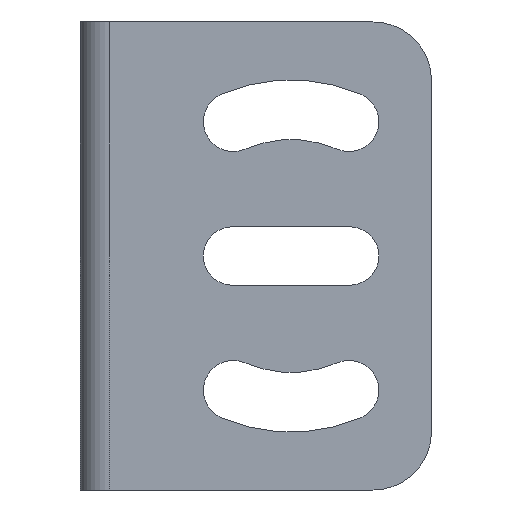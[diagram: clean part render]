
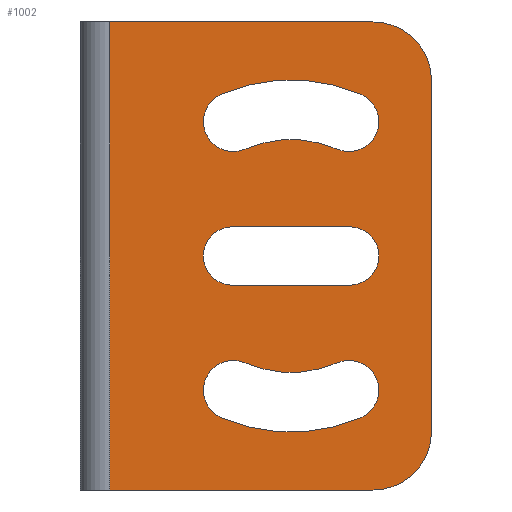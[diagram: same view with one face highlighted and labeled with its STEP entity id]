
A CAD part, front view. The second image highlights one B-rep face of the part: STEP entity #1002.
In plain terms, the highlighted planar face has unit normal (0, -1, 0).
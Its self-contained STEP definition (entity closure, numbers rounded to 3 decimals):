
#6=DIRECTION('',(1.,0.,0.));
#7=VECTOR('',#6,22.5);
#8=CARTESIAN_POINT('',(0.5,-2.,-20.));
#9=LINE('',#8,#7);
#314=DIRECTION('',(0.,0.,-1.));
#315=VECTOR('',#314,40.);
#316=CARTESIAN_POINT('',(0.5,-2.,20.));
#317=LINE('',#316,#315);
#318=CARTESIAN_POINT('',(23.,-2.,15.));
#319=DIRECTION('',(0.,-1.,0.));
#320=DIRECTION('',(1.,0.,0.));
#321=AXIS2_PLACEMENT_3D('',#318,#319,#320);
#323=CARTESIAN_POINT('',(23.,-2.,-15.));
#324=DIRECTION('',(0.,-1.,0.));
#325=DIRECTION('',(0.,0.,-1.));
#326=AXIS2_PLACEMENT_3D('',#323,#324,#325);
#328=CARTESIAN_POINT('',(11.,-2.,0.));
#329=DIRECTION('',(0.,1.,0.));
#330=DIRECTION('',(0.,0.,-1.));
#331=AXIS2_PLACEMENT_3D('',#328,#329,#330);
#333=DIRECTION('',(-1.,0.,0.));
#334=VECTOR('',#333,10.);
#335=CARTESIAN_POINT('',(21.,-2.,-2.5));
#336=LINE('',#335,#334);
#337=CARTESIAN_POINT('',(21.,-2.,0.));
#338=DIRECTION('',(0.,1.,0.));
#339=DIRECTION('',(0.,0.,1.));
#340=AXIS2_PLACEMENT_3D('',#337,#338,#339);
#342=DIRECTION('',(1.,0.,0.));
#343=VECTOR('',#342,10.);
#344=CARTESIAN_POINT('',(11.,-2.,2.5));
#345=LINE('',#344,#343);
#346=CARTESIAN_POINT('',(16.,-2.,0.));
#347=DIRECTION('',(0.,1.,0.));
#348=DIRECTION('',(-0.396,0.,0.918));
#349=AXIS2_PLACEMENT_3D('',#346,#347,#348);
#351=CARTESIAN_POINT('',(11.05,-2.,11.478));
#352=DIRECTION('',(0.,1.,0.));
#353=DIRECTION('',(0.396,0.,-0.918));
#354=AXIS2_PLACEMENT_3D('',#351,#352,#353);
#356=CARTESIAN_POINT('',(16.,-2.,0.));
#357=DIRECTION('',(0.,1.,0.));
#358=DIRECTION('',(-0.396,0.,0.918));
#359=AXIS2_PLACEMENT_3D('',#356,#357,#358);
#361=CARTESIAN_POINT('',(20.95,-2.,11.478));
#362=DIRECTION('',(0.,1.,0.));
#363=DIRECTION('',(0.396,0.,0.918));
#364=AXIS2_PLACEMENT_3D('',#361,#362,#363);
#366=CARTESIAN_POINT('',(16.,-2.,0.));
#367=DIRECTION('',(0.,1.,0.));
#368=DIRECTION('',(0.396,0.,-0.918));
#369=AXIS2_PLACEMENT_3D('',#366,#367,#368);
#371=CARTESIAN_POINT('',(20.95,-2.,-11.478));
#372=DIRECTION('',(0.,1.,0.));
#373=DIRECTION('',(-0.396,0.,0.918));
#374=AXIS2_PLACEMENT_3D('',#371,#372,#373);
#376=CARTESIAN_POINT('',(16.,-2.,0.));
#377=DIRECTION('',(0.,1.,0.));
#378=DIRECTION('',(0.396,0.,-0.918));
#379=AXIS2_PLACEMENT_3D('',#376,#377,#378);
#381=CARTESIAN_POINT('',(11.05,-2.,-11.478));
#382=DIRECTION('',(0.,1.,0.));
#383=DIRECTION('',(-0.396,0.,-0.918));
#384=AXIS2_PLACEMENT_3D('',#381,#382,#383);
#411=DIRECTION('',(1.,0.,0.));
#412=VECTOR('',#411,22.5);
#413=CARTESIAN_POINT('',(0.5,-2.,20.));
#414=LINE('',#413,#412);
#423=DIRECTION('',(0.,0.,1.));
#424=VECTOR('',#423,30.);
#425=CARTESIAN_POINT('',(28.,-2.,-15.));
#426=LINE('',#425,#424);
#559=CARTESIAN_POINT('',(28.,-2.,15.));
#560=VERTEX_POINT('',#559);
#561=CARTESIAN_POINT('',(23.,-2.,20.));
#562=VERTEX_POINT('',#561);
#563=CARTESIAN_POINT('',(23.,-2.,-20.));
#564=CARTESIAN_POINT('',(28.,-2.,-15.));
#565=VERTEX_POINT('',#563);
#566=VERTEX_POINT('',#564);
#579=CARTESIAN_POINT('',(0.5,-2.,-20.));
#581=VERTEX_POINT('',#579);
#585=CARTESIAN_POINT('',(0.5,-2.,20.));
#586=VERTEX_POINT('',#585);
#659=CARTESIAN_POINT('',(11.,-2.,-2.5));
#660=CARTESIAN_POINT('',(11.,-2.,2.5));
#661=VERTEX_POINT('',#659);
#662=VERTEX_POINT('',#660);
#663=CARTESIAN_POINT('',(21.,-2.,2.5));
#664=VERTEX_POINT('',#663);
#665=CARTESIAN_POINT('',(21.,-2.,-2.5));
#666=VERTEX_POINT('',#665);
#675=CARTESIAN_POINT('',(10.04,-2.,13.82));
#676=CARTESIAN_POINT('',(21.96,-2.,13.82));
#677=VERTEX_POINT('',#675);
#678=VERTEX_POINT('',#676);
#679=CARTESIAN_POINT('',(19.94,-2.,9.137));
#680=VERTEX_POINT('',#679);
#681=CARTESIAN_POINT('',(12.06,-2.,9.137));
#682=VERTEX_POINT('',#681);
#683=CARTESIAN_POINT('',(21.96,-2.,-13.82));
#684=CARTESIAN_POINT('',(10.04,-2.,-13.82));
#685=VERTEX_POINT('',#683);
#686=VERTEX_POINT('',#684);
#687=CARTESIAN_POINT('',(12.06,-2.,-9.137));
#688=VERTEX_POINT('',#687);
#689=CARTESIAN_POINT('',(19.94,-2.,-9.137));
#690=VERTEX_POINT('',#689);
#956=CARTESIAN_POINT('',(-2.,-2.,-20.));
#957=DIRECTION('',(0.,-1.,0.));
#958=DIRECTION('',(1.,0.,0.));
#959=AXIS2_PLACEMENT_3D('',#956,#957,#958);
#960=PLANE('',#959);
#961=ORIENTED_EDGE('',*,*,#741,.F.);
#963=ORIENTED_EDGE('',*,*,#962,.T.);
#965=ORIENTED_EDGE('',*,*,#964,.F.);
#967=ORIENTED_EDGE('',*,*,#966,.F.);
#968=ORIENTED_EDGE('',*,*,#947,.F.);
#969=ORIENTED_EDGE('',*,*,#714,.F.);
#970=EDGE_LOOP('',(#961,#963,#965,#967,#968,#969));
#971=FACE_OUTER_BOUND('',#970,.F.);
#973=ORIENTED_EDGE('',*,*,#972,.F.);
#975=ORIENTED_EDGE('',*,*,#974,.F.);
#977=ORIENTED_EDGE('',*,*,#976,.F.);
#979=ORIENTED_EDGE('',*,*,#978,.F.);
#980=EDGE_LOOP('',(#973,#975,#977,#979));
#981=FACE_BOUND('',#980,.F.);
#983=ORIENTED_EDGE('',*,*,#982,.F.);
#985=ORIENTED_EDGE('',*,*,#984,.F.);
#987=ORIENTED_EDGE('',*,*,#986,.T.);
#989=ORIENTED_EDGE('',*,*,#988,.F.);
#990=EDGE_LOOP('',(#983,#985,#987,#989));
#991=FACE_BOUND('',#990,.F.);
#993=ORIENTED_EDGE('',*,*,#992,.F.);
#995=ORIENTED_EDGE('',*,*,#994,.F.);
#997=ORIENTED_EDGE('',*,*,#996,.T.);
#999=ORIENTED_EDGE('',*,*,#998,.F.);
#1000=EDGE_LOOP('',(#993,#995,#997,#999));
#1001=FACE_BOUND('',#1000,.F.);
#1002=ADVANCED_FACE('',(#971,#981,#991,#1001),#960,.T.);
#322=CIRCLE('',#321,5.);
#327=CIRCLE('',#326,5.);
#332=CIRCLE('',#331,2.5);
#341=CIRCLE('',#340,2.5);
#350=CIRCLE('',#349,15.05);
#355=CIRCLE('',#354,2.55);
#360=CIRCLE('',#359,9.95);
#365=CIRCLE('',#364,2.55);
#370=CIRCLE('',#369,15.05);
#375=CIRCLE('',#374,2.55);
#380=CIRCLE('',#379,9.95);
#385=CIRCLE('',#384,2.55);
#714=EDGE_CURVE('',#581,#565,#9,.T.);
#741=EDGE_CURVE('',#586,#581,#317,.T.);
#947=EDGE_CURVE('',#565,#566,#327,.T.);
#962=EDGE_CURVE('',#586,#562,#414,.T.);
#964=EDGE_CURVE('',#560,#562,#322,.T.);
#966=EDGE_CURVE('',#566,#560,#426,.T.);
#972=EDGE_CURVE('',#661,#662,#332,.T.);
#974=EDGE_CURVE('',#666,#661,#336,.T.);
#976=EDGE_CURVE('',#664,#666,#341,.T.);
#978=EDGE_CURVE('',#662,#664,#345,.T.);
#982=EDGE_CURVE('',#677,#678,#350,.T.);
#984=EDGE_CURVE('',#682,#677,#355,.T.);
#986=EDGE_CURVE('',#682,#680,#360,.T.);
#988=EDGE_CURVE('',#678,#680,#365,.T.);
#992=EDGE_CURVE('',#685,#686,#370,.T.);
#994=EDGE_CURVE('',#690,#685,#375,.T.);
#996=EDGE_CURVE('',#690,#688,#380,.T.);
#998=EDGE_CURVE('',#686,#688,#385,.T.);
